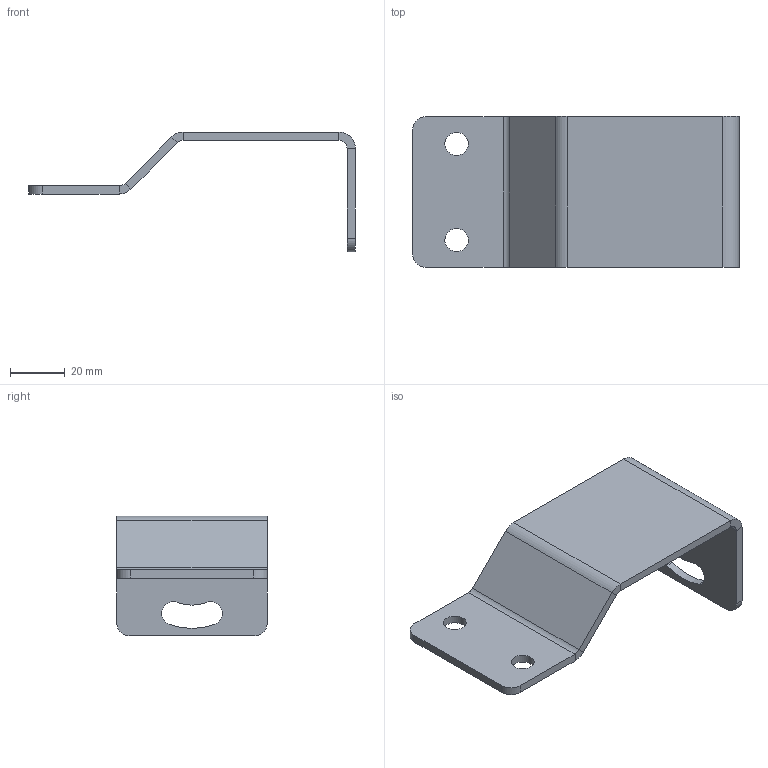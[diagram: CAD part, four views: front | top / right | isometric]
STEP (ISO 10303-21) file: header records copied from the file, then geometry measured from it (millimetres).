
FILE_DESCRIPTION(/* description */ ('BEAM SUPPORT 60x60 UNIVERSAL'),/* implementation_level */ '2;1');
FILE_NAME(/* name */ '500-1235.stp',/* time_stamp */ '2022-09-16T08:27:11+02:00',/* author */ ('PL'),/* organization */ ('CARRYLINE'),/* preprocessor_version */ 'ST-DEVELOPER v19.2',/* originating_system */ 'Autodesk Inventor 2023',/* authorisation */ '');
FILE_SCHEMA (('AUTOMOTIVE_DESIGN { 1 0 10303 214 3 1 1 }'));
Length unit declared in the file: millimetre
Products named in the file (1): 500-1235
Bounding box: 119.05 x 55 x 43.71 mm (x, y, z)
Volume: 26217 mm3; surface area: 19179.8 mm2
Topology: 1 solids, 1 shells, 41 faces, 93 edges, 54 vertices
Faces by surface type: plane 24, cylinder 17
Full cylindrical faces by diameter (mm): 8.5 x3
Entity records: 1188 total; most frequent: DIRECTION 211, CARTESIAN_POINT 189, ORIENTED_EDGE 186, EDGE_CURVE 93, AXIS2_PLACEMENT_3D 76, LINE 59, VECTOR 59, VERTEX_POINT 54
